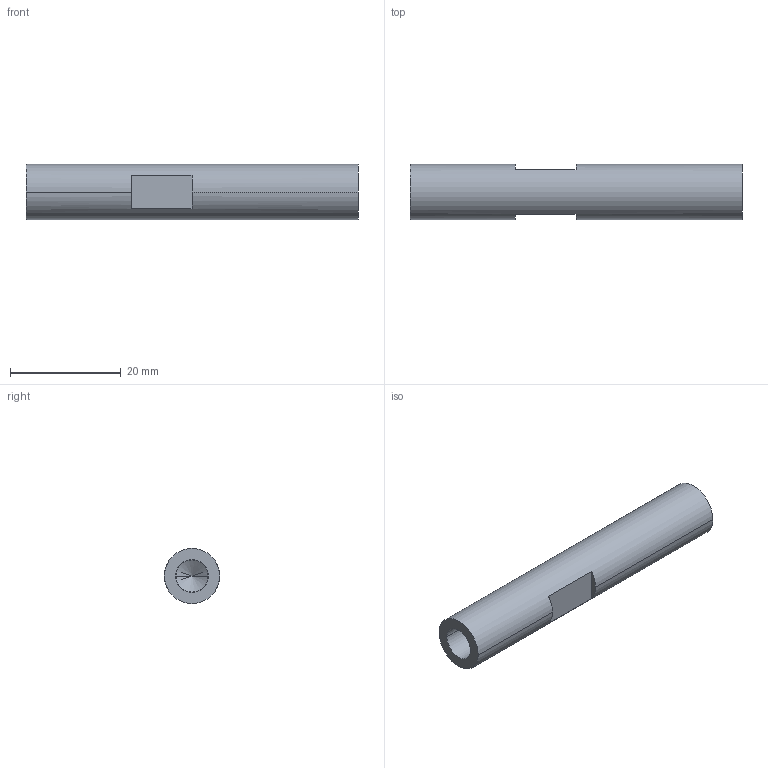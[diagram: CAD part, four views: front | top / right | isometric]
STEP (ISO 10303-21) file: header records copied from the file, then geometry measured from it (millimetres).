
FILE_DESCRIPTION (( 'STEP AP214' ), '1' );
FILE_NAME ('AWS_10x060N.STEP', '2020-10-29T19:47:28', ( '' ), ( '' ), 'SwSTEP 2.0', 'SolidWorks 2014', '' );
FILE_SCHEMA (( 'AUTOMOTIVE_DESIGN' ));
Length unit declared in the file: millimetre
Products named in the file (1): AWS_10x060N
Bounding box: 60 x 10 x 10 mm (x, y, z)
Volume: 3647.1 mm3; surface area: 2692.9 mm2
Topology: 1 solids, 1 shells, 24 faces, 56 edges, 34 vertices
Faces by surface type: cylinder 10, plane 10, cone 4
Entity records: 702 total; most frequent: DIRECTION 130, CARTESIAN_POINT 111, ORIENTED_EDGE 104, AXIS2_PLACEMENT_3D 53, EDGE_CURVE 52, VERTEX_POINT 34, EDGE_LOOP 28, CIRCLE 28
